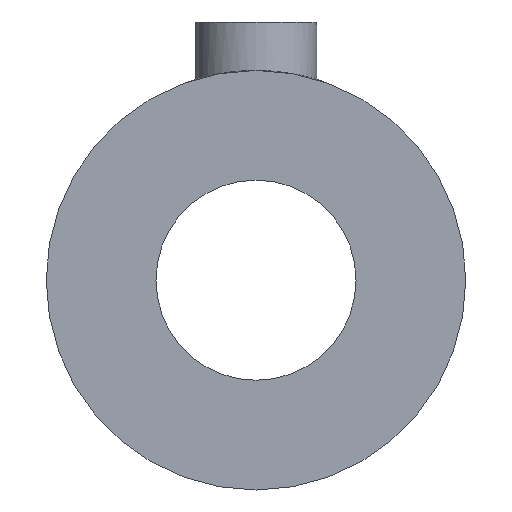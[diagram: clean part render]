
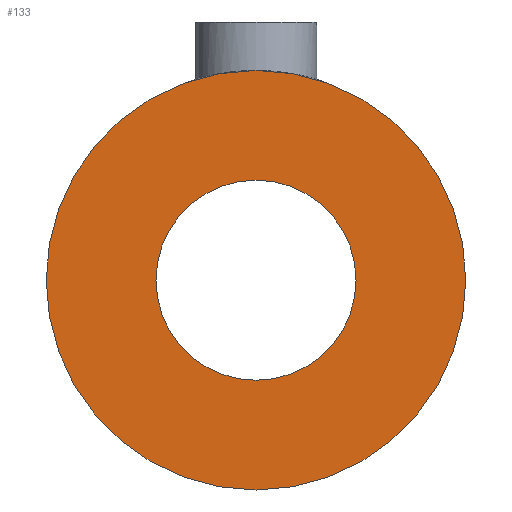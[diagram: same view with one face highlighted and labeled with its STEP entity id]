
A CAD part, front view. The second image highlights one B-rep face of the part: STEP entity #133.
In plain terms, the highlighted planar face has unit normal (0, -1, 0).
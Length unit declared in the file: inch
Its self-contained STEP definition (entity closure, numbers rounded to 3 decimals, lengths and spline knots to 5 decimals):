
#54 = ORIENTED_EDGE ( 'NONE', *, *, #131, .F. ) ;
#55 = EDGE_CURVE ( 'NONE', #140, #141, #184, .T. ) ;
#112 = EDGE_LOOP ( 'NONE', ( #113, #114 ) ) ;
#113 = ORIENTED_EDGE ( 'NONE', *, *, #55, .T. ) ;
#114 = ORIENTED_EDGE ( 'NONE', *, *, #122, .T. ) ;
#122 = EDGE_CURVE ( 'NONE', #141, #140, #458, .T. ) ;
#128 = EDGE_CURVE ( 'NONE', #152, #149, #470, .T. ) ;
#131 = EDGE_CURVE ( 'NONE', #149, #152, #403, .T. ) ;
#133 = ADVANCED_FACE ( 'NONE', ( #498, #497 ), #496, .F. ) ;
#134 = EDGE_LOOP ( 'NONE', ( #135, #54 ) ) ;
#135 = ORIENTED_EDGE ( 'NONE', *, *, #128, .F. ) ;
#140 = VERTEX_POINT ( 'NONE', #422 ) ;
#141 = VERTEX_POINT ( 'NONE', #421 ) ;
#149 = VERTEX_POINT ( 'NONE', #459 ) ;
#152 = VERTEX_POINT ( 'NONE', #487 ) ;
#177 = DIRECTION ( 'NONE',  ( 0., 0., 1. ) ) ;
#178 = DIRECTION ( 'NONE',  ( 0., 1., 0. ) ) ;
#179 = CARTESIAN_POINT ( 'NONE',  ( 0., 0., 0. ) ) ;
#180 = AXIS2_PLACEMENT_3D ( 'NONE', #179, #178, #177 ) ;
#184 = CIRCLE ( 'NONE', #180, 0.2065 ) ;
#400 = DIRECTION ( 'NONE',  ( 0., 1., 0. ) ) ;
#401 = CARTESIAN_POINT ( 'NONE',  ( 0., 0., 0. ) ) ;
#402 = AXIS2_PLACEMENT_3D ( 'NONE', #401, #400, #499 ) ;
#403 = CIRCLE ( 'NONE', #402, 0.433 ) ;
#404 = DIRECTION ( 'NONE',  ( 0., 0., 1. ) ) ;
#405 = DIRECTION ( 'NONE',  ( 0., 1., 0. ) ) ;
#406 = CARTESIAN_POINT ( 'NONE',  ( 0., 0., 0. ) ) ;
#407 = AXIS2_PLACEMENT_3D ( 'NONE', #406, #405, #404 ) ;
#421 = CARTESIAN_POINT ( 'NONE',  ( 0., 0., 0.2065 ) ) ;
#422 = CARTESIAN_POINT ( 'NONE',  ( 0., 0., -0.2065 ) ) ;
#428 = DIRECTION ( 'NONE',  ( 0., 0., 1. ) ) ;
#456 = CARTESIAN_POINT ( 'NONE',  ( 0., 0., 0. ) ) ;
#457 = AXIS2_PLACEMENT_3D ( 'NONE', #456, #505, #504 ) ;
#458 = CIRCLE ( 'NONE', #457, 0.2065 ) ;
#459 = CARTESIAN_POINT ( 'NONE',  ( 0., 0., 0.433 ) ) ;
#470 = CIRCLE ( 'NONE', #407, 0.433 ) ;
#487 = CARTESIAN_POINT ( 'NONE',  ( 0., 0., -0.433 ) ) ;
#493 = DIRECTION ( 'NONE',  ( 0., 1., 0. ) ) ;
#494 = AXIS2_PLACEMENT_3D ( 'NONE', #495, #493, #428 ) ;
#495 = CARTESIAN_POINT ( 'NONE',  ( 0., 0., 0. ) ) ;
#496 = PLANE ( 'NONE',  #494 ) ;
#497 = FACE_BOUND ( 'NONE', #112, .T. ) ;
#498 = FACE_OUTER_BOUND ( 'NONE', #134, .T. ) ;
#499 = DIRECTION ( 'NONE',  ( 0., 0., 1. ) ) ;
#504 = DIRECTION ( 'NONE',  ( 0., 0., 1. ) ) ;
#505 = DIRECTION ( 'NONE',  ( 0., 1., 0. ) ) ;
